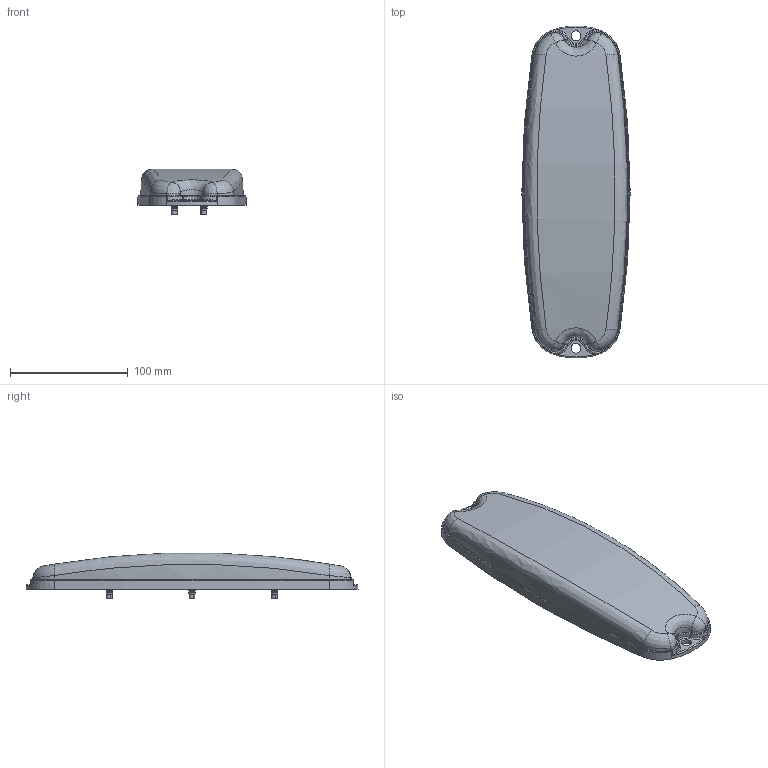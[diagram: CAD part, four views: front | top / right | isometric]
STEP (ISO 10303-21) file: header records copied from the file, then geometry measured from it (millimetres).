
FILE_DESCRIPTION(('CATIA V5 STEP Exchange'),'2;1');
FILE_NAME('C:\Documents and Settings\rufda\Desktop\PRO-00152493_AllCATPart.stp','2010-10-20T12:22:49+00:00',('none'),('none'),'CATIA Version 5 Release 17 (IN-10)','CATIA V5 STEP AP203','none');
FILE_SCHEMA(('CONFIG_CONTROL_DESIGN'));
Length unit declared in the file: millimetre
Products named in the file (1): PRO-00152493_AllCATPart
Bounding box: 91.8 x 281.44 x 38.65 mm (x, y, z)
Volume: 461703.8 mm3; surface area: 65130.8 mm2
Topology: 1 solids, 13 shells, 696 faces, 1648 edges, 1002 vertices
Faces by surface type: torus 190, cone 172, plane 169, cylinder 105, bspline 42, revolution 12, sphere 6
Entity records: 22780 total; most frequent: CARTESIAN_POINT 8471, ORIENTED_EDGE 3296, DIRECTION 2208, EDGE_CURVE 1648, AXIS2_PLACEMENT_3D 1310, VERTEX_POINT 1002, CIRCLE 834, EDGE_LOOP 732
